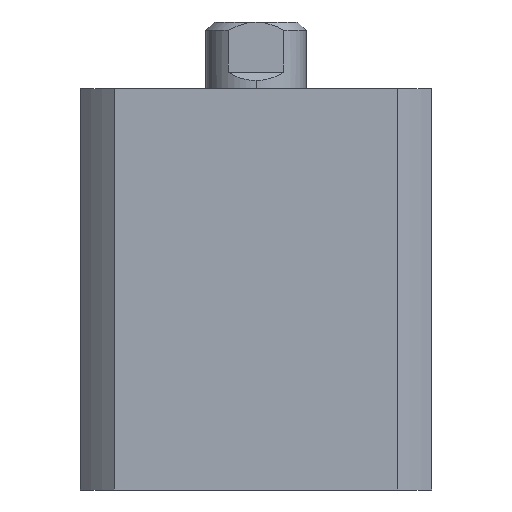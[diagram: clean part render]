
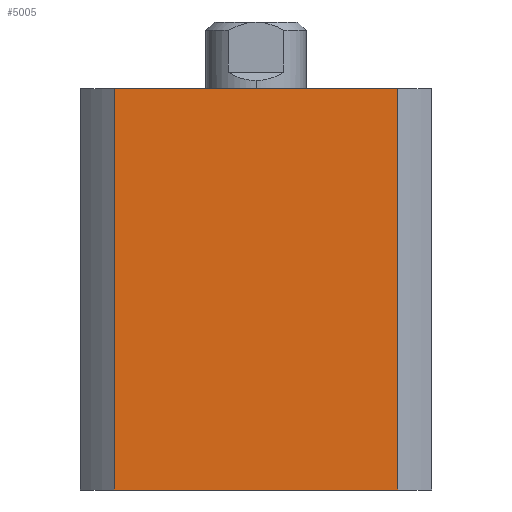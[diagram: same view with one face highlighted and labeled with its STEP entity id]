
A CAD part, left-side view. The second image highlights one B-rep face of the part: STEP entity #5005.
In plain terms, the highlighted planar face has unit normal (-1, 0, 0).
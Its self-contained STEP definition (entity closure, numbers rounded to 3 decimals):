
#133 = DIRECTION ( 'NONE',  ( 0., 1., 0. ) ) ;
#134 = DIRECTION ( 'NONE',  ( 1., 0., 0. ) ) ;
#137 = PLANE ( 'NONE',  #4152 ) ;
#139 = CARTESIAN_POINT ( 'NONE',  ( -21., 21., 48. ) ) ;
#447 = ORIENTED_EDGE ( 'NONE', *, *, #1025, .T. ) ;
#448 = ORIENTED_EDGE ( 'NONE', *, *, #1143, .F. ) ;
#451 = ORIENTED_EDGE ( 'NONE', *, *, #4053, .F. ) ;
#452 = ORIENTED_EDGE ( 'NONE', *, *, #1080, .F. ) ;
#745 = EDGE_LOOP ( 'NONE', ( #451, #452, #448, #447 ) ) ;
#1025 = EDGE_CURVE ( 'NONE', #4453, #4575, #2324, .T. ) ;
#1080 = EDGE_CURVE ( 'NONE', #4624, #4404, #2143, .T. ) ;
#1143 = EDGE_CURVE ( 'NONE', #4453, #4624, #2474, .T. ) ;
#1295 = CARTESIAN_POINT ( 'NONE',  ( -21., 16.971, 48. ) ) ;
#1300 = DIRECTION ( 'NONE',  ( 0., 0., 1. ) ) ;
#1322 = DIRECTION ( 'NONE',  ( 0., -1., 0. ) ) ;
#1323 = CARTESIAN_POINT ( 'NONE',  ( -21., 21., 48. ) ) ;
#2143 = LINE ( 'NONE', #1323, #2460 ) ;
#2286 = VECTOR ( 'NONE', #3589, 1000. ) ;
#2324 = LINE ( 'NONE', #3590, #2286 ) ;
#2333 = LINE ( 'NONE', #2906, #2548 ) ;
#2381 = VECTOR ( 'NONE', #1300, 1000. ) ;
#2460 = VECTOR ( 'NONE', #1322, 1000. ) ;
#2474 = LINE ( 'NONE', #1295, #2381 ) ;
#2548 = VECTOR ( 'NONE', #2757, 1000. ) ;
#2757 = DIRECTION ( 'NONE',  ( 0., 0., -1. ) ) ;
#2864 = CARTESIAN_POINT ( 'NONE',  ( -21., 16.971, 48. ) ) ;
#2883 = CARTESIAN_POINT ( 'NONE',  ( -21., -16.971, 0. ) ) ;
#2906 = CARTESIAN_POINT ( 'NONE',  ( -21., -16.971, 48. ) ) ;
#2980 = CARTESIAN_POINT ( 'NONE',  ( -21., 16.971, 0. ) ) ;
#3008 = CARTESIAN_POINT ( 'NONE',  ( -21., -16.971, 48. ) ) ;
#3294 = FACE_OUTER_BOUND ( 'NONE', #745, .T. ) ;
#3589 = DIRECTION ( 'NONE',  ( 0., -1., 0. ) ) ;
#3590 = CARTESIAN_POINT ( 'NONE',  ( -21., 21., 0. ) ) ;
#4053 = EDGE_CURVE ( 'NONE', #4404, #4575, #2333, .T. ) ;
#4152 = AXIS2_PLACEMENT_3D ( 'NONE', #139, #134, #133 ) ;
#4404 = VERTEX_POINT ( 'NONE', #3008 ) ;
#4453 = VERTEX_POINT ( 'NONE', #2980 ) ;
#4575 = VERTEX_POINT ( 'NONE', #2883 ) ;
#4624 = VERTEX_POINT ( 'NONE', #2864 ) ;
#5005 = ADVANCED_FACE ( 'NONE', ( #3294 ), #137, .F. ) ;
